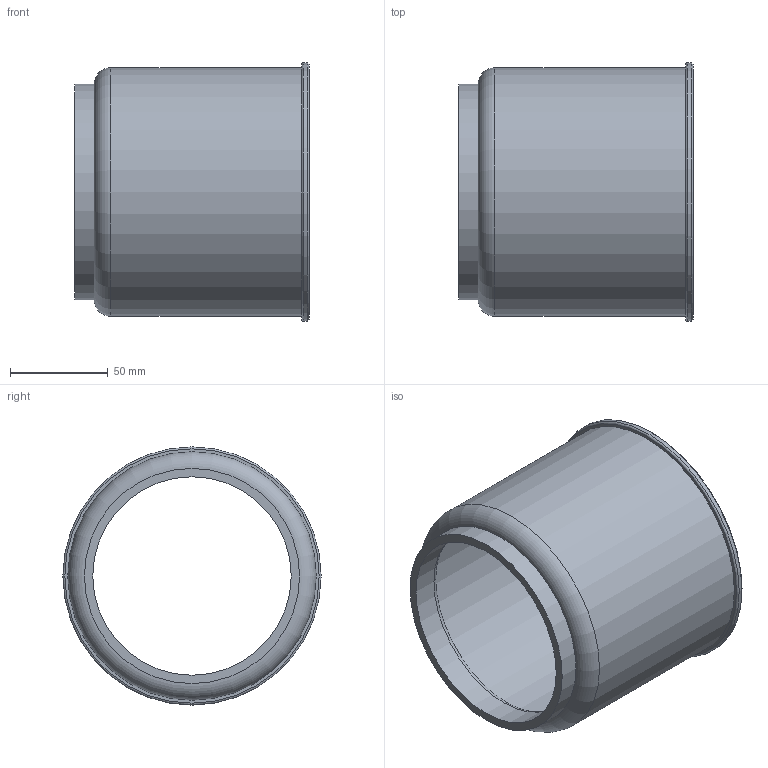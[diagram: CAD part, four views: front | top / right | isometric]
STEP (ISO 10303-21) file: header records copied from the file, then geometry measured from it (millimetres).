
FILE_DESCRIPTION(/* description */ (''),/* implementation_level */ '2;1');
FILE_NAME(/* name */ 'Z:\Geberit\Export\NewStep\367868.stp',/* time_stamp */ '2014-04-02T07:58:53+02:00',/* author */ ('nelson'),/* organization */ (''),/* preprocessor_version */ 'ST-DEVELOPER v15.2',/* originating_system */ 'Autodesk Inventor 2014',/* authorisation */ '');
FILE_SCHEMA (('AUTOMOTIVE_DESIGN { 1 0 10303 214 3 1 1 }'));
Length unit declared in the file: millimetre
Products named in the file (1): 367868
Bounding box: 120 x 132 x 132 mm (x, y, z)
Volume: 181205.9 mm3; surface area: 99392 mm2
Topology: 1 solids, 1 shells, 15 faces, 26 edges, 15 vertices
Faces by surface type: cylinder 5, torus 4, plane 4, cone 2
Full cylindrical faces by diameter (mm): 101.4 x1, 110 x1, 120 x1, 127 x1, 132 x1
Entity records: 329 total; most frequent: DIRECTION 62, CARTESIAN_POINT 46, AXIS2_PLACEMENT_3D 31, EDGE_LOOP 30, ORIENTED_EDGE 30, FACE_BOUND 17, CIRCLE 15, VERTEX_POINT 15
